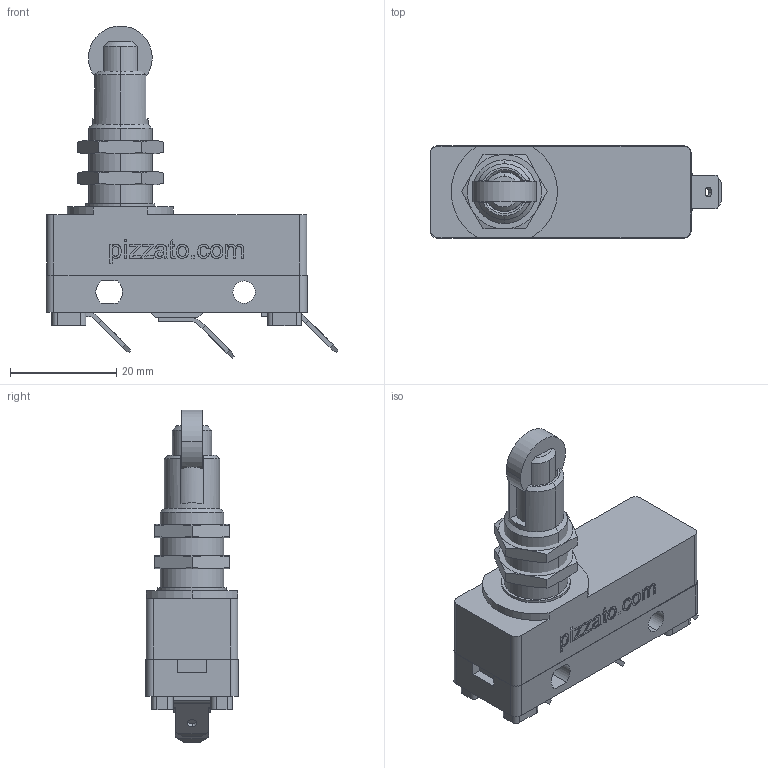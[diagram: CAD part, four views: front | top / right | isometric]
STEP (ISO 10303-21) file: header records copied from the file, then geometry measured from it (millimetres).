
FILE_DESCRIPTION (( 'STEP AP214' ), '1' );
FILE_NAME ('ZF_STEP_MF_20_.step', '2019-08-27T09:22:50', ( 'Pizzato Elettrica' ), ( 'Microsoft' ), 'SwSTEP 2.0', 'SolidWorks 2014', '' );
FILE_SCHEMA (( 'AUTOMOTIVE_DESIGN' ));
Length unit declared in the file: millimetre
Products named in the file (8): Pizzato_supporto+pistoncino_MS_20; Pizzato_Dado_83_83; Pizzato_Pistoncino_MS20; Pizzato_supporto pistoncino_MS_20_171; MF base 180; Pizzato_Faston_121; Pizzato_base 180_MF; ZF_STEP_MF_20_
Assembly tree (10 placements, depth 3):
  ZF_STEP_MF_20_
    MF base 180
      Pizzato_base 180_MF
      Pizzato_Faston_121  x3
    Pizzato_supporto+pistoncino_MS_20
      Pizzato_supporto pistoncino_MS_20_171
      Pizzato_Pistoncino_MS20
      Pizzato_Dado_83_83  x2
Bounding box: 54.97 x 17.4 x 62.51 mm (x, y, z)
Volume: 19144.6 mm3; surface area: 10439.1 mm2
Topology: 9 solids, 9 shells, 406 faces, 1044 edges, 686 vertices
Faces by surface type: plane 219, cylinder 84, bspline 69, cone 34
Entity records: 14143 total; most frequent: CARTESIAN_POINT 5894, ORIENTED_EDGE 1752, DIRECTION 1430, EDGE_CURVE 876, VERTEX_POINT 578, VECTOR 530, LINE 530, AXIS2_PLACEMENT_3D 450
